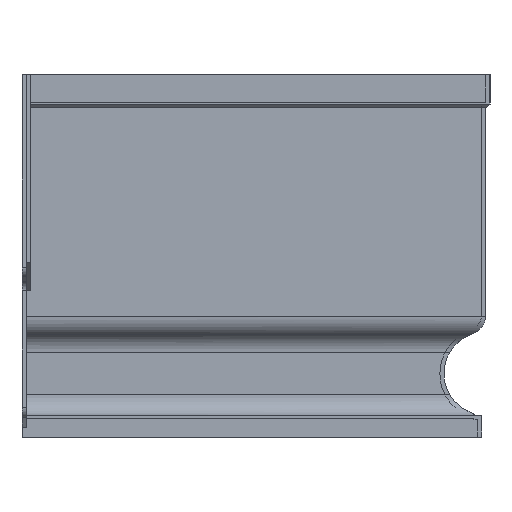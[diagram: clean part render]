
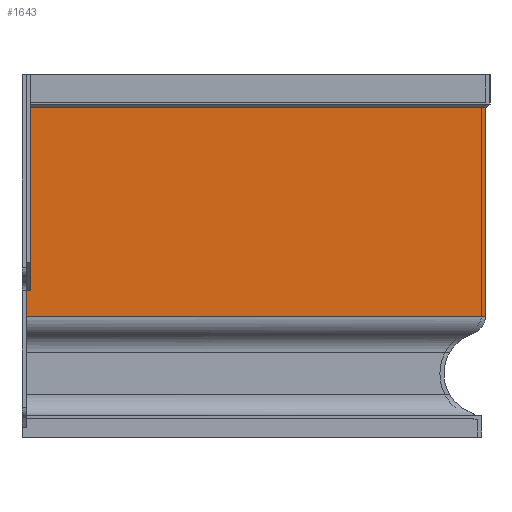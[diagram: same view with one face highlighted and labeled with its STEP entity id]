
A CAD part, left-side view. The second image highlights one B-rep face of the part: STEP entity #1643.
In plain terms, the highlighted planar face has unit normal (-1, 0, 0).
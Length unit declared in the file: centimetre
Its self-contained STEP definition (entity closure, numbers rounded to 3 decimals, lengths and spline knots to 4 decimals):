
#123=FACE_OUTER_BOUND('',#216,.T.);
#216=EDGE_LOOP('',(#1363,#1364,#1365,#1366,#1367,#1368,#1369));
#367=LINE('',#2628,#545);
#369=LINE('',#2635,#547);
#386=LINE('',#2682,#564);
#392=LINE('',#2802,#570);
#393=LINE('',#2804,#571);
#394=LINE('',#2805,#572);
#545=VECTOR('',#2043,17.5096);
#547=VECTOR('',#2049,0.4);
#564=VECTOR('',#2090,2.5263);
#570=VECTOR('',#2118,43.9907);
#571=VECTOR('',#2119,19.8431);
#572=VECTOR('',#2120,43.6);
#651=CIRCLE('',#1767,2.);
#759=VERTEX_POINT('',#2621);
#761=VERTEX_POINT('',#2626);
#763=VERTEX_POINT('',#2632);
#782=VERTEX_POINT('',#2680);
#796=VERTEX_POINT('',#2781);
#797=VERTEX_POINT('',#2783);
#798=VERTEX_POINT('',#2803);
#958=EDGE_CURVE('',#759,#761,#367,.T.);
#961=EDGE_CURVE('',#761,#763,#369,.T.);
#985=EDGE_CURVE('',#782,#763,#386,.T.);
#1003=EDGE_CURVE('',#796,#797,#651,.T.);
#1005=EDGE_CURVE('',#797,#782,#392,.T.);
#1006=EDGE_CURVE('',#796,#798,#393,.T.);
#1007=EDGE_CURVE('',#798,#759,#394,.T.);
#1363=ORIENTED_EDGE('',*,*,#961,.T.);
#1364=ORIENTED_EDGE('',*,*,#985,.F.);
#1365=ORIENTED_EDGE('',*,*,#1005,.F.);
#1366=ORIENTED_EDGE('',*,*,#1003,.F.);
#1367=ORIENTED_EDGE('',*,*,#1006,.T.);
#1368=ORIENTED_EDGE('',*,*,#1007,.T.);
#1369=ORIENTED_EDGE('',*,*,#958,.T.);
#1572=PLANE('',#1768);
#1643=ADVANCED_FACE('',(#123),#1572,.F.);
#1767=AXIS2_PLACEMENT_3D('',#2784,#2114,#2115);
#1768=AXIS2_PLACEMENT_3D('',#2801,#2116,#2117);
#2043=DIRECTION('',(0.,0.,-1.));
#2049=DIRECTION('',(0.,1.,0.));
#2090=DIRECTION('',(0.,0.,1.));
#2114=DIRECTION('center_axis',(1.,0.,0.));
#2115=DIRECTION('ref_axis',(0.,-0.816,-0.577));
#2116=DIRECTION('center_axis',(1.,0.,0.));
#2117=DIRECTION('ref_axis',(0.,0.,-1.));
#2118=DIRECTION('',(0.,1.,0.));
#2119=DIRECTION('',(0.,0.,1.));
#2120=DIRECTION('',(0.,1.,0.));
#2621=CARTESIAN_POINT('',(-53.2,-0.8,31.6));
#2626=CARTESIAN_POINT('',(-53.2,-0.8,14.0904));
#2628=CARTESIAN_POINT('',(-53.2,-0.8,20.8909));
#2632=CARTESIAN_POINT('',(-53.2,-0.4,14.0904));
#2635=CARTESIAN_POINT('',(-53.2,-11.2057,14.0904));
#2680=CARTESIAN_POINT('',(-53.2,-0.4,11.5641));
#2682=CARTESIAN_POINT('',(-53.2,-0.4,17.305));
#2781=CARTESIAN_POINT('',(-53.2,-44.4,11.7569));
#2783=CARTESIAN_POINT('',(-53.2,-44.3907,11.5641));
#2784=CARTESIAN_POINT('Origin',(-53.2,-42.4,11.7569));
#2801=CARTESIAN_POINT('Origin',(-53.2,-22.0115,16.9091));
#2802=CARTESIAN_POINT('',(-53.2,-44.4,11.5641));
#2803=CARTESIAN_POINT('',(-53.2,-44.4,31.6));
#2804=CARTESIAN_POINT('',(-53.2,-44.4,31.6));
#2805=CARTESIAN_POINT('',(-53.2,0.,31.6));
